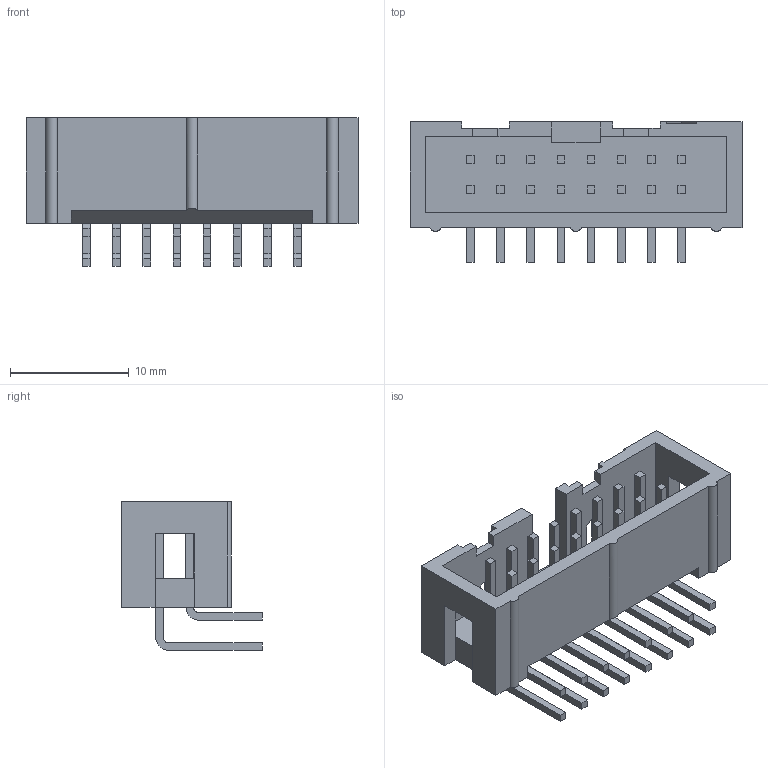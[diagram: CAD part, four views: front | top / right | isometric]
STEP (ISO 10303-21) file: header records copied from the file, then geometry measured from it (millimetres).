
FILE_DESCRIPTION(('STEP AP242'),'1');
FILE_NAME('2-1761605-6.stp','2021-02-27T05:07:57',('TraceParts'),('TraceParts S.A.'),'Spatial InterOp 3D',' ',' ');
FILE_SCHEMA(('AP242_MANAGED_MODEL_BASED_3D_ENGINEERING_MIM_LF {1 0 10303 442 1 1 4}'));
Length unit declared in the file: millimetre
Products named in the file (1): 2-1761605-6
Bounding box: 27.94 x 11.81 x 12.51 mm (x, y, z)
Volume: 1083.6 mm3; surface area: 2130.8 mm2
Topology: 1 solids, 1 shells, 272 faces, 730 edges, 484 vertices
Faces by surface type: plane 235, cylinder 37
Entity records: 8426 total; most frequent: CARTESIAN_POINT 1501, ORIENTED_EDGE 1460, DIRECTION 1348, EDGE_CURVE 730, LINE 656, VECTOR 656, VERTEX_POINT 484, AXIS2_PLACEMENT_3D 346
